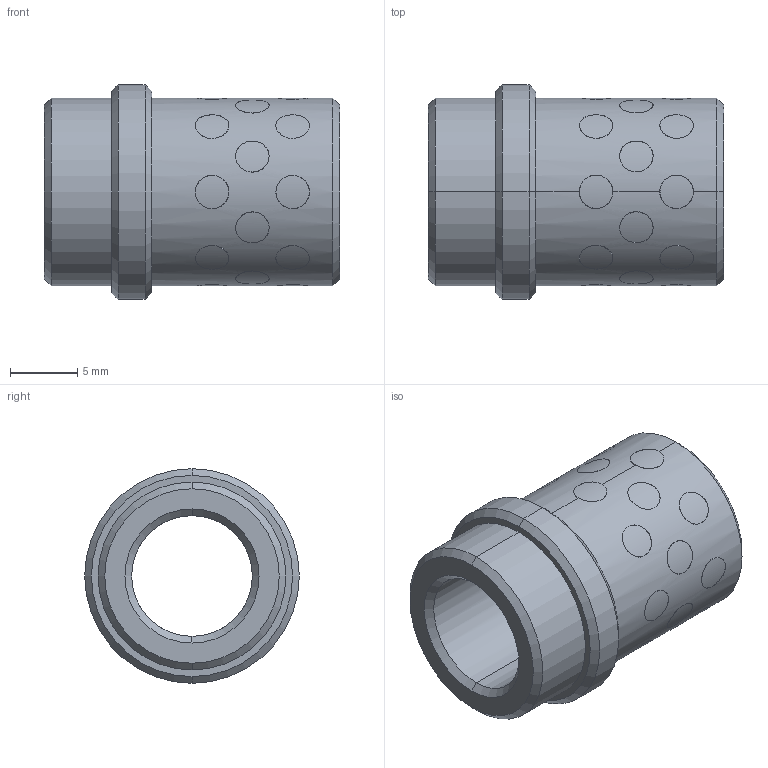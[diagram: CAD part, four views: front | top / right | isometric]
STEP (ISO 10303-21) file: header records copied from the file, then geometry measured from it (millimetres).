
FILE_DESCRIPTION((''),'2;1');
FILE_NAME('G31209017','2018-01-25T',('MANU'),(''),'PRO/ENGINEER BY PARAMETRIC TECHNOLOGY CORPORATION, 2012130','PRO/ENGINEER BY PARAMETRIC TECHNOLOGY CORPORATION, 2012130','');
FILE_SCHEMA(('CONFIG_CONTROL_DESIGN'));
Length unit declared in the file: millimetre
Products named in the file (1): G31209017
Bounding box: 22 x 16 x 16 mm (x, y, z)
Volume: 2094.5 mm3; surface area: 2759.7 mm2
Topology: 25 solids, 25 shells, 168 faces, 360 edges, 236 vertices
Faces by surface type: cylinder 152, cone 12, plane 4
Entity records: 6938 total; most frequent: CARTESIAN_POINT 3572, ORIENTED_EDGE 720, DIRECTION 516, EDGE_CURVE 360, VERTEX_POINT 236, EDGE_LOOP 212, B_SPLINE_CURVE_WITH_KNOTS 208, AXIS2_PLACEMENT_3D 196
